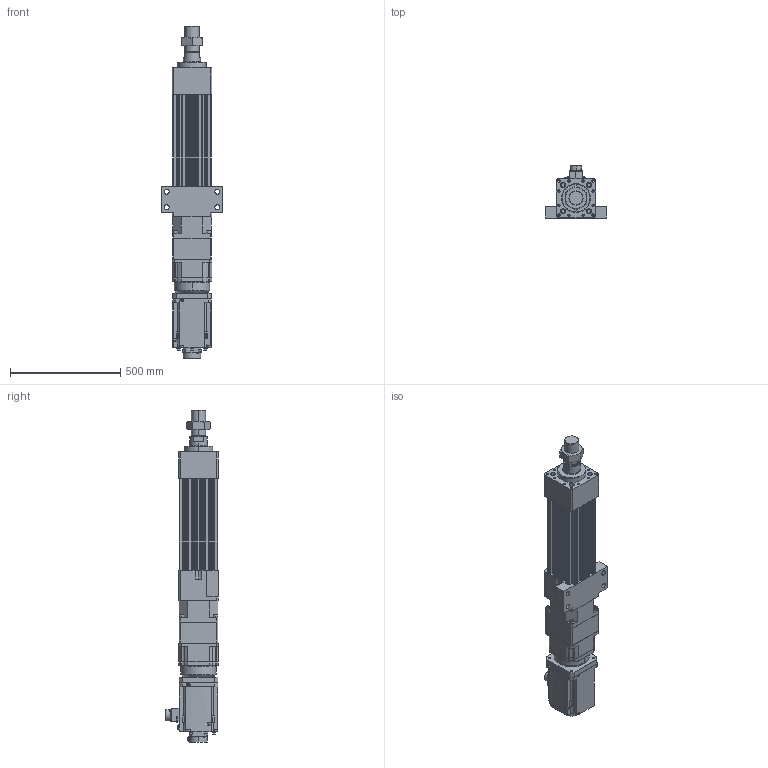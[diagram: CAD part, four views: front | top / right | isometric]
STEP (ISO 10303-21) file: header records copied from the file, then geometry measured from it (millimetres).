
FILE_DESCRIPTION (( 'STEP AP203' ), '1' );
FILE_NAME ('HES180HS-S100-W070G00-M-FFC.STEP', '2026-06-10T06:52:26', ( 'tms' ), ( '' ), 'SwSTEP 2.0', 'SolidWorks 2013', '' );
FILE_SCHEMA (( 'CONFIG_CONTROL_DESIGN' ));
Length unit declared in the file: millimetre
Products named in the file (9): AB1803; HES180-FFC-100; HES180HS-S100-W070G00-M-FFC; AB1802; HES180-S-G180; M64X2.0P; HES180-M-ROD-100; HG-SR702B; AB1801
Assembly tree (8 placements, depth 2):
  HES180HS-S100-W070G00-M-FFC
    HES180-FFC-100
    HES180-M-ROD-100
    M64X2.0P
    HES180-S-G180
    AB1801
    AB1802
    AB1803
    HG-SR702B
Bounding box: 280 x 239.1 x 1505.74 mm (x, y, z)
Volume: 23723889.7 mm3; surface area: 2033444.4 mm2
Topology: 5 solids, 20 shells, 1590 faces, 4113 edges, 2664 vertices
Faces by surface type: cylinder 720, plane 637, cone 166, bspline 63, torus 4
Entity records: 57254 total; most frequent: CARTESIAN_POINT 16780, DIRECTION 8535, ORIENTED_EDGE 8102, EDGE_CURVE 4075, AXIS2_PLACEMENT_3D 3199, VERTEX_POINT 2664, VECTOR 2137, LINE 2137
